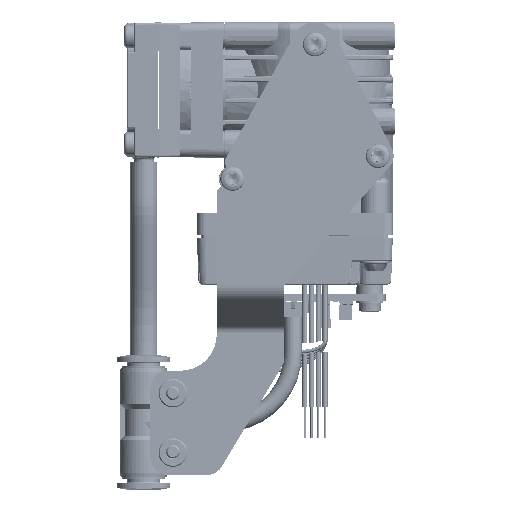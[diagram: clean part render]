
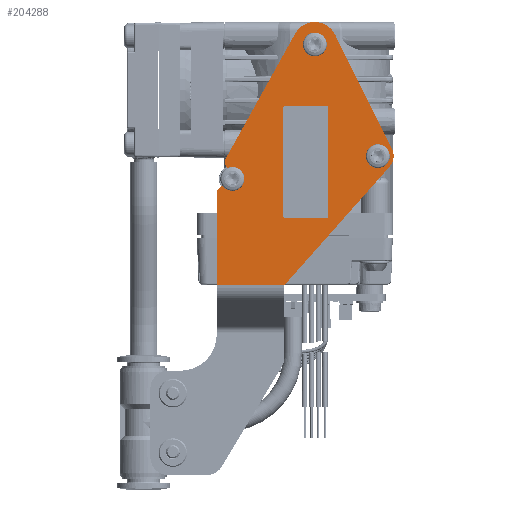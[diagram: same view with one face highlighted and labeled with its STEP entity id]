
A CAD part, left-side view. The second image highlights one B-rep face of the part: STEP entity #204288.
In plain terms, the highlighted planar face has unit normal (-1, 0, 0).
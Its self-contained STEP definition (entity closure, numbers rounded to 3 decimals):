
#44215=DIRECTION('',(0.,1.,0.));
#44216=VECTOR('',#44215,15.);
#44217=CARTESIAN_POINT('',(-18.7,6.8,-43.4));
#44218=LINE('',#44217,#44216);
#44432=CARTESIAN_POINT('',(-18.7,18.3,-19.75));
#44433=DIRECTION('',(1.,0.,0.));
#44434=DIRECTION('',(0.,0.,1.));
#44435=AXIS2_PLACEMENT_3D('',#44432,#44433,#44434);
#44437=CARTESIAN_POINT('',(-18.7,18.3,-19.75));
#44438=DIRECTION('',(1.,0.,0.));
#44439=DIRECTION('',(0.,0.421,0.907));
#44440=AXIS2_PLACEMENT_3D('',#44437,#44438,#44439);
#44442=CARTESIAN_POINT('',(-18.7,17.969,-16.065));
#44443=DIRECTION('',(-1.,0.,0.));
#44444=DIRECTION('',(0.,0.874,0.486));
#44445=AXIS2_PLACEMENT_3D('',#44442,#44443,#44444);
#44447=DIRECTION('',(0.,-0.486,0.874));
#44448=VECTOR('',#44447,31.599);
#44449=CARTESIAN_POINT('',(-18.7,19.717,-15.094));
#44450=LINE('',#44449,#44448);
#44451=CARTESIAN_POINT('',(-18.7,0.,10.1));
#44452=DIRECTION('',(1.,0.,0.));
#44453=DIRECTION('',(0.,0.874,0.486));
#44454=AXIS2_PLACEMENT_3D('',#44451,#44452,#44453);
#44456=DIRECTION('',(0.,-0.445,-0.896));
#44457=VECTOR('',#44456,28.439);
#44458=CARTESIAN_POINT('',(-18.7,-4.478,12.325));
#44459=LINE('',#44458,#44457);
#44460=CARTESIAN_POINT('',(-18.7,-14.,-14.7));
#44461=DIRECTION('',(1.,0.,0.));
#44462=DIRECTION('',(0.,-0.896,0.445));
#44463=AXIS2_PLACEMENT_3D('',#44460,#44461,#44462);
#44465=DIRECTION('',(0.,0.664,-0.748));
#44466=VECTOR('',#44465,35.272);
#44467=CARTESIAN_POINT('',(-18.7,-16.617,-17.024));
#44468=LINE('',#44467,#44466);
#44469=DIRECTION('',(0.,0.,-1.));
#44470=VECTOR('',#44469,20.268);
#44471=CARTESIAN_POINT('',(-18.7,21.8,-23.132));
#44472=LINE('',#44471,#44470);
#44473=CARTESIAN_POINT('',(-18.7,19.8,-23.132));
#44474=DIRECTION('',(-1.,0.,0.));
#44475=DIRECTION('',(0.,0.241,0.971));
#44476=AXIS2_PLACEMENT_3D('',#44473,#44474,#44475);
#44478=CARTESIAN_POINT('',(-18.7,18.3,-19.75));
#44479=DIRECTION('',(1.,0.,0.));
#44480=DIRECTION('',(0.,0.,-1.));
#44481=AXIS2_PLACEMENT_3D('',#44478,#44479,#44480);
#44483=CARTESIAN_POINT('',(-18.7,0.,10.1));
#44484=DIRECTION('',(1.,0.,0.));
#44485=DIRECTION('',(0.,0.,1.));
#44486=AXIS2_PLACEMENT_3D('',#44483,#44484,#44485);
#44488=CARTESIAN_POINT('',(-18.7,0.,10.1));
#44489=DIRECTION('',(1.,0.,0.));
#44490=DIRECTION('',(0.,0.,-1.));
#44491=AXIS2_PLACEMENT_3D('',#44488,#44489,#44490);
#44493=CARTESIAN_POINT('',(-18.7,-14.,-14.7));
#44494=DIRECTION('',(1.,0.,0.));
#44495=DIRECTION('',(0.,0.,1.));
#44496=AXIS2_PLACEMENT_3D('',#44493,#44494,#44495);
#44498=CARTESIAN_POINT('',(-18.7,-14.,-14.7));
#44499=DIRECTION('',(1.,0.,0.));
#44500=DIRECTION('',(0.,0.,-1.));
#44501=AXIS2_PLACEMENT_3D('',#44498,#44499,#44500);
#44503=DIRECTION('',(0.,0.,1.));
#44504=VECTOR('',#44503,24.);
#44505=CARTESIAN_POINT('',(-18.7,-3.,-28.));
#44506=LINE('',#44505,#44504);
#44507=CARTESIAN_POINT('',(-18.7,-2.5,-4.));
#44508=DIRECTION('',(-1.,0.,0.));
#44509=DIRECTION('',(0.,-1.,0.));
#44510=AXIS2_PLACEMENT_3D('',#44507,#44508,#44509);
#44512=DIRECTION('',(0.,1.,0.));
#44513=VECTOR('',#44512,9.);
#44514=CARTESIAN_POINT('',(-18.7,-2.5,-3.5));
#44515=LINE('',#44514,#44513);
#44516=CARTESIAN_POINT('',(-18.7,6.5,-4.));
#44517=DIRECTION('',(1.,0.,0.));
#44518=DIRECTION('',(0.,1.,0.));
#44519=AXIS2_PLACEMENT_3D('',#44516,#44517,#44518);
#44521=DIRECTION('',(0.,0.,1.));
#44522=VECTOR('',#44521,24.);
#44523=CARTESIAN_POINT('',(-18.7,7.,-28.));
#44524=LINE('',#44523,#44522);
#44525=CARTESIAN_POINT('',(-18.7,6.5,-28.));
#44526=DIRECTION('',(-1.,0.,0.));
#44527=DIRECTION('',(0.,1.,0.));
#44528=AXIS2_PLACEMENT_3D('',#44525,#44526,#44527);
#44530=DIRECTION('',(0.,1.,0.));
#44531=VECTOR('',#44530,9.);
#44532=CARTESIAN_POINT('',(-18.7,-2.5,-28.5));
#44533=LINE('',#44532,#44531);
#44534=CARTESIAN_POINT('',(-18.7,-2.5,-28.));
#44535=DIRECTION('',(1.,0.,0.));
#44536=DIRECTION('',(0.,-1.,0.));
#44537=AXIS2_PLACEMENT_3D('',#44534,#44535,#44536);
#142467=CARTESIAN_POINT('',(-18.7,-17.134,-13.142));
#142468=CARTESIAN_POINT('',(-18.7,-16.617,-17.024));
#142469=VERTEX_POINT('',#142467);
#142470=VERTEX_POINT('',#142468);
#142471=CARTESIAN_POINT('',(-18.7,6.8,-43.4));
#142472=VERTEX_POINT('',#142471);
#142473=CARTESIAN_POINT('',(-18.7,4.371,12.528));
#142474=CARTESIAN_POINT('',(-18.7,-4.478,12.325));
#142475=VERTEX_POINT('',#142473);
#142476=VERTEX_POINT('',#142474);
#142485=CARTESIAN_POINT('',(-18.7,21.8,-43.4));
#142486=VERTEX_POINT('',#142485);
#142546=CARTESIAN_POINT('',(-18.7,19.717,-15.094));
#142548=VERTEX_POINT('',#142546);
#142549=CARTESIAN_POINT('',(-18.7,21.8,-23.132));
#142551=VERTEX_POINT('',#142549);
#143234=CARTESIAN_POINT('',(-18.7,18.3,-17.3));
#143235=CARTESIAN_POINT('',(-18.7,18.3,-22.2));
#143236=VERTEX_POINT('',#143234);
#143237=VERTEX_POINT('',#143235);
#143238=CARTESIAN_POINT('',(-18.7,20.282,-21.191));
#143239=VERTEX_POINT('',#143238);
#143240=CARTESIAN_POINT('',(-18.7,19.333,-17.528));
#143241=VERTEX_POINT('',#143240);
#143422=CARTESIAN_POINT('',(-18.7,0.,12.55));
#143423=CARTESIAN_POINT('',(-18.7,0.,7.65));
#143424=VERTEX_POINT('',#143422);
#143425=VERTEX_POINT('',#143423);
#143592=CARTESIAN_POINT('',(-18.7,-14.,-12.25));
#143593=CARTESIAN_POINT('',(-18.7,-14.,-17.15));
#143594=VERTEX_POINT('',#143592);
#143595=VERTEX_POINT('',#143593);
#144151=CARTESIAN_POINT('',(-18.7,-3.,-28.));
#144152=CARTESIAN_POINT('',(-18.7,-3.,-4.));
#144153=VERTEX_POINT('',#144151);
#144154=VERTEX_POINT('',#144152);
#144155=CARTESIAN_POINT('',(-18.7,7.,-28.));
#144156=CARTESIAN_POINT('',(-18.7,7.,-4.));
#144157=VERTEX_POINT('',#144155);
#144158=VERTEX_POINT('',#144156);
#144159=CARTESIAN_POINT('',(-18.7,-2.5,-28.5));
#144160=CARTESIAN_POINT('',(-18.7,6.5,-28.5));
#144161=VERTEX_POINT('',#144159);
#144162=VERTEX_POINT('',#144160);
#144163=CARTESIAN_POINT('',(-18.7,-2.5,-3.5));
#144164=CARTESIAN_POINT('',(-18.7,6.5,-3.5));
#144165=VERTEX_POINT('',#144163);
#144166=VERTEX_POINT('',#144164);
#204234=CARTESIAN_POINT('',(-18.7,-17.5,-43.4));
#204235=DIRECTION('',(-1.,0.,0.));
#204236=DIRECTION('',(0.,0.,1.));
#204237=AXIS2_PLACEMENT_3D('',#204234,#204235,#204236);
#204238=PLANE('',#204237);
#204240=ORIENTED_EDGE('',*,*,#204239,.F.);
#204242=ORIENTED_EDGE('',*,*,#204241,.F.);
#204243=ORIENTED_EDGE('',*,*,#204118,.F.);
#204244=ORIENTED_EDGE('',*,*,#204139,.T.);
#204245=ORIENTED_EDGE('',*,*,#204159,.T.);
#204246=ORIENTED_EDGE('',*,*,#204180,.T.);
#204247=ORIENTED_EDGE('',*,*,#204201,.T.);
#204248=ORIENTED_EDGE('',*,*,#204221,.T.);
#204249=ORIENTED_EDGE('',*,*,#203824,.T.);
#204251=ORIENTED_EDGE('',*,*,#204250,.F.);
#204253=ORIENTED_EDGE('',*,*,#204252,.F.);
#204255=ORIENTED_EDGE('',*,*,#204254,.F.);
#204256=EDGE_LOOP('',(#204240,#204242,#204243,#204244,#204245,#204246,#204247,
#204248,#204249,#204251,#204253,#204255));
#204257=FACE_OUTER_BOUND('',#204256,.F.);
#204259=ORIENTED_EDGE('',*,*,#204258,.F.);
#204261=ORIENTED_EDGE('',*,*,#204260,.F.);
#204262=EDGE_LOOP('',(#204259,#204261));
#204263=FACE_BOUND('',#204262,.F.);
#204265=ORIENTED_EDGE('',*,*,#204264,.F.);
#204267=ORIENTED_EDGE('',*,*,#204266,.F.);
#204268=EDGE_LOOP('',(#204265,#204267));
#204269=FACE_BOUND('',#204268,.F.);
#204271=ORIENTED_EDGE('',*,*,#204270,.T.);
#204273=ORIENTED_EDGE('',*,*,#204272,.T.);
#204275=ORIENTED_EDGE('',*,*,#204274,.T.);
#204277=ORIENTED_EDGE('',*,*,#204276,.F.);
#204279=ORIENTED_EDGE('',*,*,#204278,.F.);
#204281=ORIENTED_EDGE('',*,*,#204280,.T.);
#204283=ORIENTED_EDGE('',*,*,#204282,.F.);
#204285=ORIENTED_EDGE('',*,*,#204284,.F.);
#204286=EDGE_LOOP('',(#204271,#204273,#204275,#204277,#204279,#204281,#204283,
#204285));
#204287=FACE_BOUND('',#204286,.F.);
#44436=CIRCLE('',#44435,2.45);
#44441=CIRCLE('',#44440,2.45);
#44446=CIRCLE('',#44445,2.);
#44455=CIRCLE('',#44454,5.);
#44464=CIRCLE('',#44463,3.5);
#44477=CIRCLE('',#44476,2.);
#44482=CIRCLE('',#44481,2.45);
#44487=CIRCLE('',#44486,2.45);
#44492=CIRCLE('',#44491,2.45);
#44497=CIRCLE('',#44496,2.45);
#44502=CIRCLE('',#44501,2.45);
#44511=CIRCLE('',#44510,0.5);
#44520=CIRCLE('',#44519,0.5);
#44529=CIRCLE('',#44528,0.5);
#44538=CIRCLE('',#44537,0.5);
#203824=EDGE_CURVE('',#142472,#142486,#44218,.T.);
#204118=EDGE_CURVE('',#142548,#143241,#44446,.T.);
#204139=EDGE_CURVE('',#142548,#142475,#44450,.T.);
#204159=EDGE_CURVE('',#142475,#142476,#44455,.T.);
#204180=EDGE_CURVE('',#142476,#142469,#44459,.T.);
#204201=EDGE_CURVE('',#142469,#142470,#44464,.T.);
#204221=EDGE_CURVE('',#142470,#142472,#44468,.T.);
#204239=EDGE_CURVE('',#143236,#143237,#44436,.T.);
#204241=EDGE_CURVE('',#143241,#143236,#44441,.T.);
#204250=EDGE_CURVE('',#142551,#142486,#44472,.T.);
#204252=EDGE_CURVE('',#143239,#142551,#44477,.T.);
#204254=EDGE_CURVE('',#143237,#143239,#44482,.T.);
#204258=EDGE_CURVE('',#143424,#143425,#44487,.T.);
#204260=EDGE_CURVE('',#143425,#143424,#44492,.T.);
#204264=EDGE_CURVE('',#143594,#143595,#44497,.T.);
#204266=EDGE_CURVE('',#143595,#143594,#44502,.T.);
#204270=EDGE_CURVE('',#144153,#144154,#44506,.T.);
#204272=EDGE_CURVE('',#144154,#144165,#44511,.T.);
#204274=EDGE_CURVE('',#144165,#144166,#44515,.T.);
#204276=EDGE_CURVE('',#144158,#144166,#44520,.T.);
#204278=EDGE_CURVE('',#144157,#144158,#44524,.T.);
#204280=EDGE_CURVE('',#144157,#144162,#44529,.T.);
#204282=EDGE_CURVE('',#144161,#144162,#44533,.T.);
#204284=EDGE_CURVE('',#144153,#144161,#44538,.T.);
#204288=ADVANCED_FACE('',(#204257,#204263,#204269,#204287),#204238,.T.);
